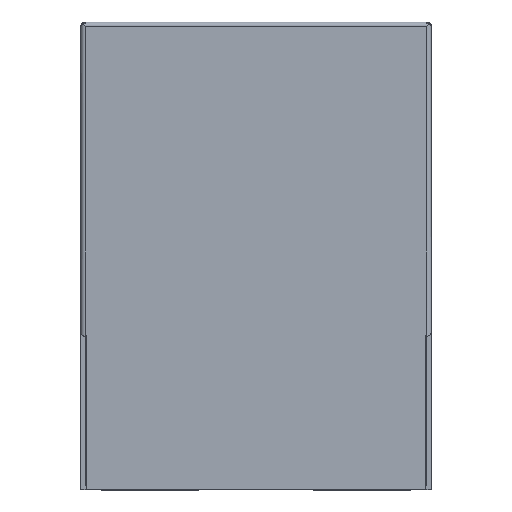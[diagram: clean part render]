
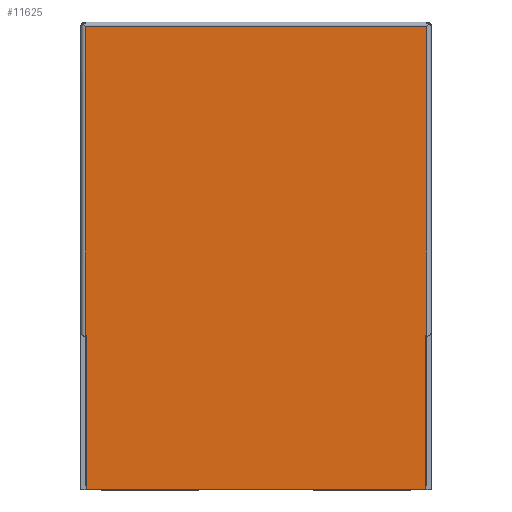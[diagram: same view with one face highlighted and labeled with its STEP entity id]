
A CAD part, top view. The second image highlights one B-rep face of the part: STEP entity #11625.
In plain terms, the highlighted planar face has unit normal (0, 0, 1).
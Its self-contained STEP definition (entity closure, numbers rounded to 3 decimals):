
#135=DIRECTION('',(-1.,0.,0.));
#136=VECTOR('',#135,15.4);
#137=CARTESIAN_POINT('',(7.7,-18.15,6.85));
#138=LINE('',#137,#136);
#139=DIRECTION('',(0.,1.,0.));
#140=VECTOR('',#139,6.95);
#141=CARTESIAN_POINT('',(-7.7,-18.15,6.85));
#142=LINE('',#141,#140);
#143=DIRECTION('',(0.,-1.,0.));
#144=VECTOR('',#143,6.95);
#145=CARTESIAN_POINT('',(7.7,-11.2,6.85));
#146=LINE('',#145,#144);
#454=DIRECTION('',(-1.,0.,0.));
#455=VECTOR('',#454,15.5);
#456=CARTESIAN_POINT('',(7.75,2.85,6.85));
#457=LINE('',#456,#455);
#577=DIRECTION('',(0.,-1.,0.));
#578=VECTOR('',#577,14.05);
#579=CARTESIAN_POINT('',(-7.75,2.85,6.85));
#580=LINE('',#579,#578);
#598=DIRECTION('',(1.,0.,0.));
#599=VECTOR('',#598,0.05);
#600=CARTESIAN_POINT('',(-7.75,-11.2,6.85));
#601=LINE('',#600,#599);
#8520=DIRECTION('',(1.,0.,0.));
#8521=VECTOR('',#8520,0.05);
#8522=CARTESIAN_POINT('',(7.7,-11.2,6.85));
#8523=LINE('',#8522,#8521);
#8541=DIRECTION('',(0.,1.,0.));
#8542=VECTOR('',#8541,14.05);
#8543=CARTESIAN_POINT('',(7.75,-11.2,6.85));
#8544=LINE('',#8543,#8542);
#9261=CARTESIAN_POINT('',(7.7,-18.15,6.85));
#9262=CARTESIAN_POINT('',(-7.7,-18.15,6.85));
#9263=VERTEX_POINT('',#9261);
#9264=VERTEX_POINT('',#9262);
#9347=CARTESIAN_POINT('',(-7.7,-11.2,6.85));
#9348=VERTEX_POINT('',#9347);
#9349=CARTESIAN_POINT('',(-7.75,-11.2,6.85));
#9350=VERTEX_POINT('',#9349);
#9351=CARTESIAN_POINT('',(-7.75,2.85,6.85));
#9352=VERTEX_POINT('',#9351);
#9353=CARTESIAN_POINT('',(7.75,2.85,6.85));
#9354=VERTEX_POINT('',#9353);
#9355=CARTESIAN_POINT('',(7.75,-11.2,6.85));
#9356=VERTEX_POINT('',#9355);
#9357=CARTESIAN_POINT('',(7.7,-11.2,6.85));
#9358=VERTEX_POINT('',#9357);
#11603=CARTESIAN_POINT('',(0.,-7.55,6.85));
#11604=DIRECTION('',(0.,0.,1.));
#11605=DIRECTION('',(-1.,0.,0.));
#11606=AXIS2_PLACEMENT_3D('',#11603,#11604,#11605);
#11607=PLANE('',#11606);
#11608=ORIENTED_EDGE('',*,*,#11510,.T.);
#11610=ORIENTED_EDGE('',*,*,#11609,.T.);
#11612=ORIENTED_EDGE('',*,*,#11611,.F.);
#11614=ORIENTED_EDGE('',*,*,#11613,.F.);
#11616=ORIENTED_EDGE('',*,*,#11615,.F.);
#11618=ORIENTED_EDGE('',*,*,#11617,.F.);
#11620=ORIENTED_EDGE('',*,*,#11619,.F.);
#11622=ORIENTED_EDGE('',*,*,#11621,.T.);
#11623=EDGE_LOOP('',(#11608,#11610,#11612,#11614,#11616,#11618,#11620,#11622));
#11624=FACE_OUTER_BOUND('',#11623,.F.);
#11625=ADVANCED_FACE('',(#11624),#11607,.T.);
#11510=EDGE_CURVE('',#9263,#9264,#138,.T.);
#11609=EDGE_CURVE('',#9264,#9348,#142,.T.);
#11611=EDGE_CURVE('',#9350,#9348,#601,.T.);
#11613=EDGE_CURVE('',#9352,#9350,#580,.T.);
#11615=EDGE_CURVE('',#9354,#9352,#457,.T.);
#11617=EDGE_CURVE('',#9356,#9354,#8544,.T.);
#11619=EDGE_CURVE('',#9358,#9356,#8523,.T.);
#11621=EDGE_CURVE('',#9358,#9263,#146,.T.);
